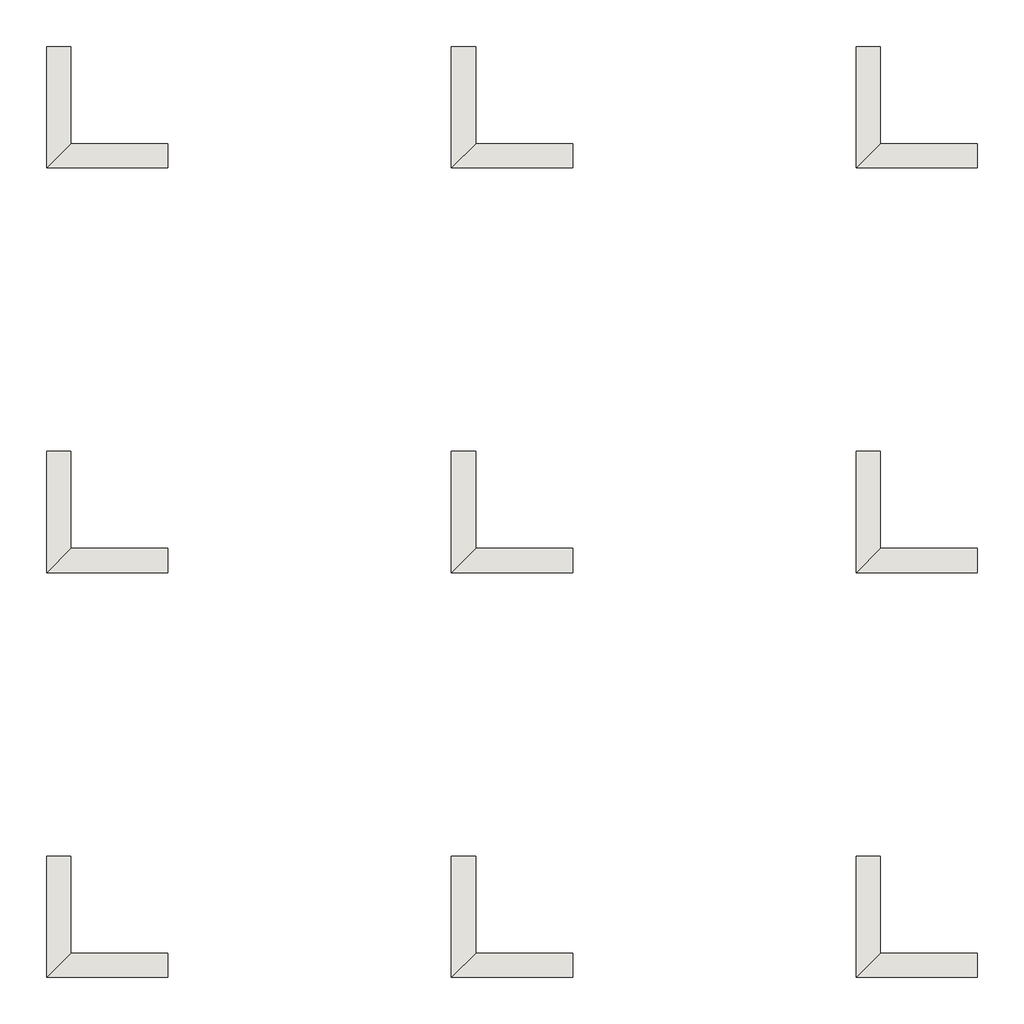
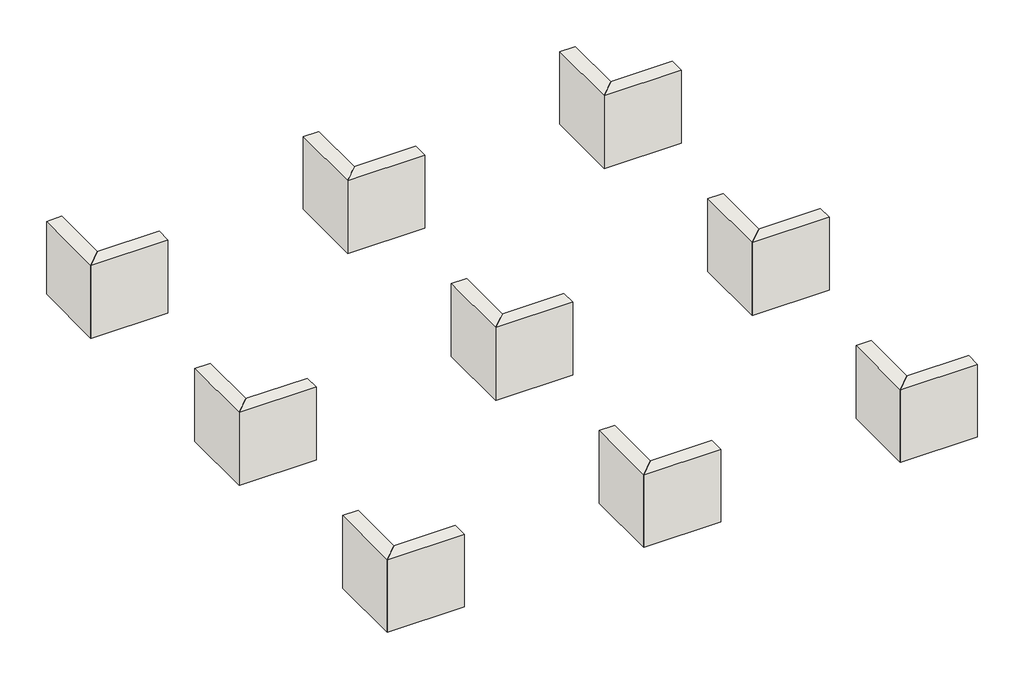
# One storey: 18 walls.
"""IFC4 building model written with IfcOpenShell, lengths in millimetres."""

from ifc_helpers import new_model, si_unit, origin, place, context, project, spatial, faceted_brep, element, save

model = new_model("IFC4")

# Units and contexts
model_context = context("Model", 3, world=origin())
ifc_project = project(units=[si_unit("LENGTHUNIT", "METRE", prefix="MILLI")], contexts=[model_context])

# Site, building, storey
site = spatial("IfcSite", under=ifc_project)
building = spatial("IfcBuilding", under=site)
storey = spatial("IfcBuildingStorey", under=building, Name="DESSUS DALLE - REZ-DE-CHAUSSÉE", Elevation=0.0)

# Walls
placement = place(None, origin())
element("IfcWall", 1, ObjectType="ISOBLOC-01-10", at=placement, inside=storey, context=model_context, shape_type="Brep", body=[
    faceted_brep([(6591.3200479, -4700.934624, 0.0), (6591.3200479, -5900.934624, 0.0), (6591.3200479, -5900.934624, 1200.0), (6591.3200479, -4700.934624, 1200.0), (6831.3200479, -4700.934624, 0.0), (6831.3200479, -4700.934624, 1200.0), (6831.3200479, -5660.934624, 1200.0), (6831.3200479, -5660.934624, 0.0), (6771.3200479, -4700.934624, 0.0), (6651.3200479, -4700.934624, 0.0), (6771.3200479, -5720.934624, 0.0), (6651.3200479, -5840.934624, 0.0)], [[[0, 1, 2, 3]], [[4, 5, 6, 7]], [[3, 2, 6, 5]], [[0, 3, 5, 4, 8, 9]], [[8, 4, 7, 10]], [[1, 0, 9, 11]], [[9, 8, 10, 11]], [[2, 1, 11, 10, 7, 6]]]),
])
element("IfcWall", 2, ObjectType="ISOBLOC-01-10", at=placement, inside=storey, context=model_context, shape_type="Brep", body=[
    faceted_brep([(6591.3200479, -5900.934624, 0.0), (7791.3200479, -5900.934624, 0.0), (7791.3200479, -5900.934624, 1200.0), (6591.3200479, -5900.934624, 1200.0), (6831.3200479, -5660.934624, 0.0), (6831.3200479, -5660.934624, 1200.0), (7791.3200479, -5660.934624, 1200.0), (7791.3200479, -5660.934624, 0.0), (7791.3200479, -5840.934624, 0.0), (7791.3200479, -5720.934624, 0.0), (6771.3200479, -5720.934624, 0.0), (6651.3200479, -5840.934624, 0.0)], [[[0, 1, 2, 3]], [[4, 5, 6, 7]], [[2, 1, 8, 9, 7, 6]], [[3, 2, 6, 5]], [[10, 4, 7, 9]], [[1, 0, 11, 8]], [[0, 3, 5, 4, 10, 11]], [[11, 10, 9, 8]]]),
])
element("IfcWall", 3, ObjectType="ISOBLOC-03-10", at=placement, inside=storey, context=model_context, shape_type="Brep", body=[
    faceted_brep([(10591.3200479, -4700.934624, 0.0), (10591.3200479, -5900.934624, 0.0), (10591.3200479, -5900.934624, 1200.0), (10591.3200479, -4700.934624, 1200.0), (10831.3200479, -4700.934624, 0.0), (10831.3200479, -4700.934624, 1200.0), (10831.3200479, -5660.934624, 1200.0), (10831.3200479, -5660.934624, 0.0), (10771.3200479, -4700.934624, 0.0), (10651.3200479, -4700.934624, 0.0), (10771.3200479, -5720.934624, 0.0), (10651.3200479, -5840.934624, 0.0)], [[[0, 1, 2, 3]], [[4, 5, 6, 7]], [[3, 2, 6, 5]], [[0, 3, 5, 4, 8, 9]], [[8, 4, 7, 10]], [[1, 0, 9, 11]], [[9, 8, 10, 11]], [[2, 1, 11, 10, 7, 6]]]),
])
element("IfcWall", 4, ObjectType="ISOBLOC-03-10", at=placement, inside=storey, context=model_context, shape_type="Brep", body=[
    faceted_brep([(10591.3200479, -5900.934624, 0.0), (11791.3200479, -5900.934624, 0.0), (11791.3200479, -5900.934624, 1200.0), (10591.3200479, -5900.934624, 1200.0), (10831.3200479, -5660.934624, 0.0), (10831.3200479, -5660.934624, 1200.0), (11791.3200479, -5660.934624, 1200.0), (11791.3200479, -5660.934624, 0.0), (11791.3200479, -5840.934624, 0.0), (11791.3200479, -5720.934624, 0.0), (10771.3200479, -5720.934624, 0.0), (10651.3200479, -5840.934624, 0.0)], [[[0, 1, 2, 3]], [[4, 5, 6, 7]], [[2, 1, 8, 9, 7, 6]], [[3, 2, 6, 5]], [[10, 4, 7, 9]], [[1, 0, 11, 8]], [[0, 3, 5, 4, 10, 11]], [[11, 10, 9, 8]]]),
])
element("IfcWall", 5, ObjectType="ISOBLOC-04-10", at=placement, inside=storey, context=model_context, shape_type="Brep", body=[
    faceted_brep([(14591.3200479, -4700.934624, 0.0), (14591.3200479, -5900.934624, 0.0), (14591.3200479, -5900.934624, 1200.0), (14591.3200479, -4700.934624, 1200.0), (14831.3200479, -4700.934624, 0.0), (14831.3200479, -4700.934624, 1200.0), (14831.3200479, -5660.934624, 1200.0), (14831.3200479, -5660.934624, 0.0), (14771.3200479, -4700.934624, 0.0), (14651.3200479, -4700.934624, 0.0), (14771.3200479, -5720.934624, 0.0), (14651.3200479, -5840.934624, 0.0)], [[[0, 1, 2, 3]], [[4, 5, 6, 7]], [[3, 2, 6, 5]], [[0, 3, 5, 4, 8, 9]], [[8, 4, 7, 10]], [[1, 0, 9, 11]], [[9, 8, 10, 11]], [[2, 1, 11, 10, 7, 6]]]),
])
element("IfcWall", 6, ObjectType="ISOBLOC-04-10", at=placement, inside=storey, context=model_context, shape_type="Brep", body=[
    faceted_brep([(14591.3200479, -5900.934624, 0.0), (15791.3200479, -5900.934624, 0.0), (15791.3200479, -5900.934624, 1200.0), (14591.3200479, -5900.934624, 1200.0), (14831.3200479, -5660.934624, 0.0), (14831.3200479, -5660.934624, 1200.0), (15791.3200479, -5660.934624, 1200.0), (15791.3200479, -5660.934624, 0.0), (15791.3200479, -5840.934624, 0.0), (15791.3200479, -5720.934624, 0.0), (14771.3200479, -5720.934624, 0.0), (14651.3200479, -5840.934624, 0.0)], [[[0, 1, 2, 3]], [[4, 5, 6, 7]], [[2, 1, 8, 9, 7, 6]], [[3, 2, 6, 5]], [[10, 4, 7, 9]], [[1, 0, 11, 8]], [[0, 3, 5, 4, 10, 11]], [[11, 10, 9, 8]]]),
])
element("IfcWall", 7, ObjectType="ISOBLOC-05-10", at=placement, inside=storey, context=model_context, shape_type="Brep", body=[
    faceted_brep([(6591.3200479, -8700.934624, 0.0), (6591.3200479, -9900.934624, 0.0), (6591.3200479, -9900.934624, 1200.0), (6591.3200479, -8700.934624, 1200.0), (6831.3200479, -8700.934624, 0.0), (6831.3200479, -8700.934624, 1200.0), (6831.3200479, -9660.934624, 1200.0), (6831.3200479, -9660.934624, 0.0), (6771.3200479, -8700.934624, 0.0), (6651.3200479, -8700.934624, 0.0), (6771.3200479, -9720.934624, 0.0), (6651.3200479, -9840.934624, 0.0)], [[[0, 1, 2, 3]], [[4, 5, 6, 7]], [[3, 2, 6, 5]], [[0, 3, 5, 4, 8, 9]], [[8, 4, 7, 10]], [[1, 0, 9, 11]], [[9, 8, 10, 11]], [[2, 1, 11, 10, 7, 6]]]),
])
element("IfcWall", 8, ObjectType="ISOBLOC-05-10", at=placement, inside=storey, context=model_context, shape_type="Brep", body=[
    faceted_brep([(6591.3200479, -9900.934624, 0.0), (7791.3200479, -9900.934624, 0.0), (7791.3200479, -9900.934624, 1200.0), (6591.3200479, -9900.934624, 1200.0), (6831.3200479, -9660.934624, 0.0), (6831.3200479, -9660.934624, 1200.0), (7791.3200479, -9660.934624, 1200.0), (7791.3200479, -9660.934624, 0.0), (7791.3200479, -9840.934624, 0.0), (7791.3200479, -9720.934624, 0.0), (6771.3200479, -9720.934624, 0.0), (6651.3200479, -9840.934624, 0.0)], [[[0, 1, 2, 3]], [[4, 5, 6, 7]], [[2, 1, 8, 9, 7, 6]], [[3, 2, 6, 5]], [[10, 4, 7, 9]], [[1, 0, 11, 8]], [[0, 3, 5, 4, 10, 11]], [[11, 10, 9, 8]]]),
])
element("IfcWall", 9, ObjectType="ISOBLOC-10-10", at=placement, inside=storey, context=model_context, shape_type="Brep", body=[
    faceted_brep([(10591.3200479, -8700.934624, 0.0), (10591.3200479, -9900.934624, 0.0), (10591.3200479, -9900.934624, 1200.0), (10591.3200479, -8700.934624, 1200.0), (10831.3200479, -8700.934624, 0.0), (10831.3200479, -8700.934624, 1200.0), (10831.3200479, -9660.934624, 1200.0), (10831.3200479, -9660.934624, 0.0), (10771.3200479, -8700.934624, 0.0), (10651.3200479, -8700.934624, 0.0), (10771.3200479, -9720.934624, 0.0), (10651.3200479, -9840.934624, 0.0)], [[[0, 1, 2, 3]], [[4, 5, 6, 7]], [[3, 2, 6, 5]], [[0, 3, 5, 4, 8, 9]], [[8, 4, 7, 10]], [[1, 0, 9, 11]], [[9, 8, 10, 11]], [[2, 1, 11, 10, 7, 6]]]),
])
element("IfcWall", 10, ObjectType="ISOBLOC-10-10", at=placement, inside=storey, context=model_context, shape_type="Brep", body=[
    faceted_brep([(10591.3200479, -9900.934624, 0.0), (11791.3200479, -9900.934624, 0.0), (11791.3200479, -9900.934624, 1200.0), (10591.3200479, -9900.934624, 1200.0), (10831.3200479, -9660.934624, 0.0), (10831.3200479, -9660.934624, 1200.0), (11791.3200479, -9660.934624, 1200.0), (11791.3200479, -9660.934624, 0.0), (11791.3200479, -9840.934624, 0.0), (11791.3200479, -9720.934624, 0.0), (10771.3200479, -9720.934624, 0.0), (10651.3200479, -9840.934624, 0.0)], [[[0, 1, 2, 3]], [[4, 5, 6, 7]], [[2, 1, 8, 9, 7, 6]], [[3, 2, 6, 5]], [[10, 4, 7, 9]], [[1, 0, 11, 8]], [[0, 3, 5, 4, 10, 11]], [[11, 10, 9, 8]]]),
])
element("IfcWall", 11, ObjectType="ISOBLOC-22-10", at=placement, inside=storey, context=model_context, shape_type="Brep", body=[
    faceted_brep([(14591.3200479, -8700.934624, 0.0), (14591.3200479, -9900.934624, 0.0), (14591.3200479, -9900.934624, 1200.0), (14591.3200479, -8700.934624, 1200.0), (14831.3200479, -8700.934624, 0.0), (14831.3200479, -8700.934624, 1200.0), (14831.3200479, -9660.934624, 1200.0), (14831.3200479, -9660.934624, 0.0), (14771.3200479, -8700.934624, 0.0), (14651.3200479, -8700.934624, 0.0), (14771.3200479, -9720.934624, 0.0), (14651.3200479, -9840.934624, 0.0)], [[[0, 1, 2, 3]], [[4, 5, 6, 7]], [[3, 2, 6, 5]], [[0, 3, 5, 4, 8, 9]], [[8, 4, 7, 10]], [[1, 0, 9, 11]], [[9, 8, 10, 11]], [[2, 1, 11, 10, 7, 6]]]),
])
element("IfcWall", 12, ObjectType="ISOBLOC-22-10", at=placement, inside=storey, context=model_context, shape_type="Brep", body=[
    faceted_brep([(14591.3200479, -9900.934624, 0.0), (15791.3200479, -9900.934624, 0.0), (15791.3200479, -9900.934624, 1200.0), (14591.3200479, -9900.934624, 1200.0), (14831.3200479, -9660.934624, 0.0), (14831.3200479, -9660.934624, 1200.0), (15791.3200479, -9660.934624, 1200.0), (15791.3200479, -9660.934624, 0.0), (15791.3200479, -9840.934624, 0.0), (15791.3200479, -9720.934624, 0.0), (14771.3200479, -9720.934624, 0.0), (14651.3200479, -9840.934624, 0.0)], [[[0, 1, 2, 3]], [[4, 5, 6, 7]], [[2, 1, 8, 9, 7, 6]], [[3, 2, 6, 5]], [[10, 4, 7, 9]], [[1, 0, 11, 8]], [[0, 3, 5, 4, 10, 11]], [[11, 10, 9, 8]]]),
])
element("IfcWall", 13, ObjectType="ISOBLOC-50-10", at=placement, inside=storey, context=model_context, shape_type="Brep", body=[
    faceted_brep([(6591.3200479, -12700.934624, 0.0), (6591.3200479, -13900.934624, 0.0), (6591.3200479, -13900.934624, 1200.0), (6591.3200479, -12700.934624, 1200.0), (6831.3200479, -12700.934624, 0.0), (6831.3200479, -12700.934624, 1200.0), (6831.3200479, -13660.934624, 1200.0), (6831.3200479, -13660.934624, 0.0), (6771.3200479, -12700.934624, 0.0), (6651.3200479, -12700.934624, 0.0), (6771.3200479, -13720.934624, 0.0), (6651.3200479, -13840.934624, 0.0)], [[[0, 1, 2, 3]], [[4, 5, 6, 7]], [[3, 2, 6, 5]], [[0, 3, 5, 4, 8, 9]], [[8, 4, 7, 10]], [[1, 0, 9, 11]], [[9, 8, 10, 11]], [[2, 1, 11, 10, 7, 6]]]),
])
element("IfcWall", 14, ObjectType="ISOBLOC-50-10", at=placement, inside=storey, context=model_context, shape_type="Brep", body=[
    faceted_brep([(6591.3200479, -13900.934624, 0.0), (7791.3200479, -13900.934624, 0.0), (7791.3200479, -13900.934624, 1200.0), (6591.3200479, -13900.934624, 1200.0), (6831.3200479, -13660.934624, 0.0), (6831.3200479, -13660.934624, 1200.0), (7791.3200479, -13660.934624, 1200.0), (7791.3200479, -13660.934624, 0.0), (7791.3200479, -13840.934624, 0.0), (7791.3200479, -13720.934624, 0.0), (6771.3200479, -13720.934624, 0.0), (6651.3200479, -13840.934624, 0.0)], [[[0, 1, 2, 3]], [[4, 5, 6, 7]], [[2, 1, 8, 9, 7, 6]], [[3, 2, 6, 5]], [[10, 4, 7, 9]], [[1, 0, 11, 8]], [[0, 3, 5, 4, 10, 11]], [[11, 10, 9, 8]]]),
])
element("IfcWall", 15, ObjectType="ISOBLOC-55-10", at=placement, inside=storey, context=model_context, shape_type="Brep", body=[
    faceted_brep([(10591.3200479, -12700.934624, 0.0), (10591.3200479, -13900.934624, 0.0), (10591.3200479, -13900.934624, 1200.0), (10591.3200479, -12700.934624, 1200.0), (10831.3200479, -12700.934624, 0.0), (10831.3200479, -12700.934624, 1200.0), (10831.3200479, -13660.934624, 1200.0), (10831.3200479, -13660.934624, 0.0), (10771.3200479, -12700.934624, 0.0), (10651.3200479, -12700.934624, 0.0), (10771.3200479, -13720.934624, 0.0), (10651.3200479, -13840.934624, 0.0)], [[[0, 1, 2, 3]], [[4, 5, 6, 7]], [[3, 2, 6, 5]], [[0, 3, 5, 4, 8, 9]], [[8, 4, 7, 10]], [[1, 0, 9, 11]], [[9, 8, 10, 11]], [[2, 1, 11, 10, 7, 6]]]),
])
element("IfcWall", 16, ObjectType="ISOBLOC-55-10", at=placement, inside=storey, context=model_context, shape_type="Brep", body=[
    faceted_brep([(10591.3200479, -13900.934624, 0.0), (11791.3200479, -13900.934624, 0.0), (11791.3200479, -13900.934624, 1200.0), (10591.3200479, -13900.934624, 1200.0), (10831.3200479, -13660.934624, 0.0), (10831.3200479, -13660.934624, 1200.0), (11791.3200479, -13660.934624, 1200.0), (11791.3200479, -13660.934624, 0.0), (11791.3200479, -13840.934624, 0.0), (11791.3200479, -13720.934624, 0.0), (10771.3200479, -13720.934624, 0.0), (10651.3200479, -13840.934624, 0.0)], [[[0, 1, 2, 3]], [[4, 5, 6, 7]], [[2, 1, 8, 9, 7, 6]], [[3, 2, 6, 5]], [[10, 4, 7, 9]], [[1, 0, 11, 8]], [[0, 3, 5, 4, 10, 11]], [[11, 10, 9, 8]]]),
])
element("IfcWall", 17, ObjectType="ISOBLOC-60-10", at=placement, inside=storey, context=model_context, shape_type="Brep", body=[
    faceted_brep([(14591.3200479, -12700.934624, 0.0), (14591.3200479, -13900.934624, 0.0), (14591.3200479, -13900.934624, 1200.0), (14591.3200479, -12700.934624, 1200.0), (14831.3200479, -12700.934624, 0.0), (14831.3200479, -12700.934624, 1200.0), (14831.3200479, -13660.934624, 1200.0), (14831.3200479, -13660.934624, 0.0), (14771.3200479, -12700.934624, 0.0), (14651.3200479, -12700.934624, 0.0), (14771.3200479, -13720.934624, 0.0), (14651.3200479, -13840.934624, 0.0)], [[[0, 1, 2, 3]], [[4, 5, 6, 7]], [[3, 2, 6, 5]], [[0, 3, 5, 4, 8, 9]], [[8, 4, 7, 10]], [[1, 0, 9, 11]], [[9, 8, 10, 11]], [[2, 1, 11, 10, 7, 6]]]),
])
element("IfcWall", 18, ObjectType="ISOBLOC-60-10", at=placement, inside=storey, context=model_context, shape_type="Brep", body=[
    faceted_brep([(14591.3200479, -13900.934624, 0.0), (15791.3200479, -13900.934624, 0.0), (15791.3200479, -13900.934624, 1200.0), (14591.3200479, -13900.934624, 1200.0), (14831.3200479, -13660.934624, 0.0), (14831.3200479, -13660.934624, 1200.0), (15791.3200479, -13660.934624, 1200.0), (15791.3200479, -13660.934624, 0.0), (15791.3200479, -13840.934624, 0.0), (15791.3200479, -13720.934624, 0.0), (14771.3200479, -13720.934624, 0.0), (14651.3200479, -13840.934624, 0.0)], [[[0, 1, 2, 3]], [[4, 5, 6, 7]], [[2, 1, 8, 9, 7, 6]], [[3, 2, 6, 5]], [[10, 4, 7, 9]], [[1, 0, 11, 8]], [[0, 3, 5, 4, 10, 11]], [[11, 10, 9, 8]]]),
])

save(model, "model.ifc")
